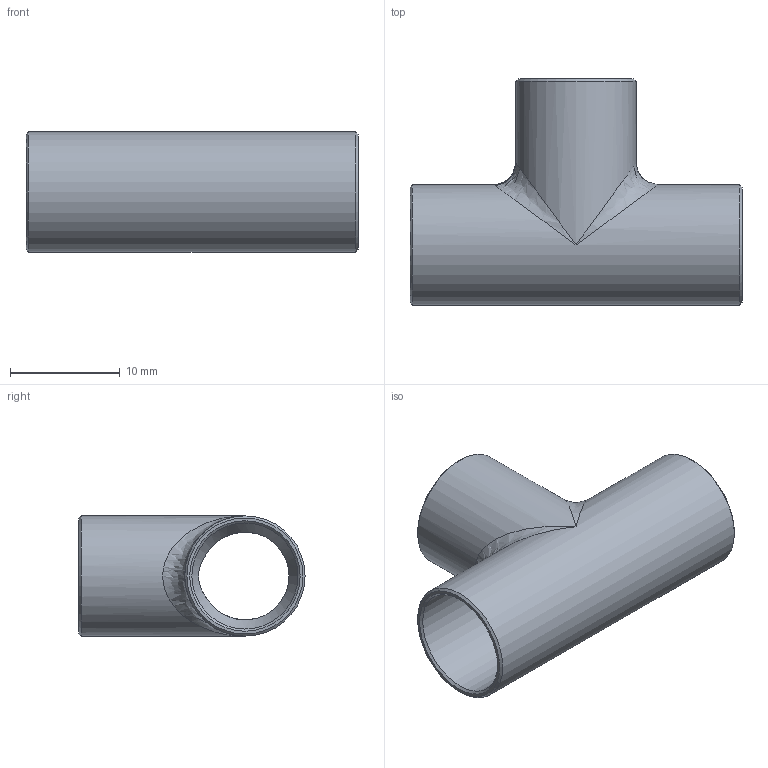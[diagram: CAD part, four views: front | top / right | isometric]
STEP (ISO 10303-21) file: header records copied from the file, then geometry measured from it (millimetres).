
FILE_DESCRIPTION((''),'2;1');
FILE_NAME('G:\SANHA-Ternat\Technik\Management\Bouwmaten + markeringen\z-maattekeningen 3D\29000s\2913038_3d.stp','2017-07-26T15:19:48',('vdvijverd'),(''),'Autodesk Inventor 2009','Autodesk Inventor 2009','');
FILE_SCHEMA(('AUTOMOTIVE_DESIGN { 1 0 10303 214 1 1 1 1 }'));
Length unit declared in the file: millimetre
Products named in the file (1): 2913038_3d
Bounding box: 30.2 x 20.57 x 10.95 mm (x, y, z)
Volume: 1079.3 mm3; surface area: 2514 mm2
Topology: 1 solids, 1 shells, 24 faces, 70 edges, 39 vertices
Faces by surface type: cone 8, cylinder 7, bspline 6, plane 3
Full cylindrical faces by diameter (mm): 9.645 x2, 10.945 x2
Entity records: 1414 total; most frequent: CARTESIAN_POINT 889, DIRECTION 112, ORIENTED_EDGE 82, AXIS2_PLACEMENT_3D 56, EDGE_LOOP 42, EDGE_CURVE 41, VERTEX_POINT 33, FACE_OUTER_BOUND 24
